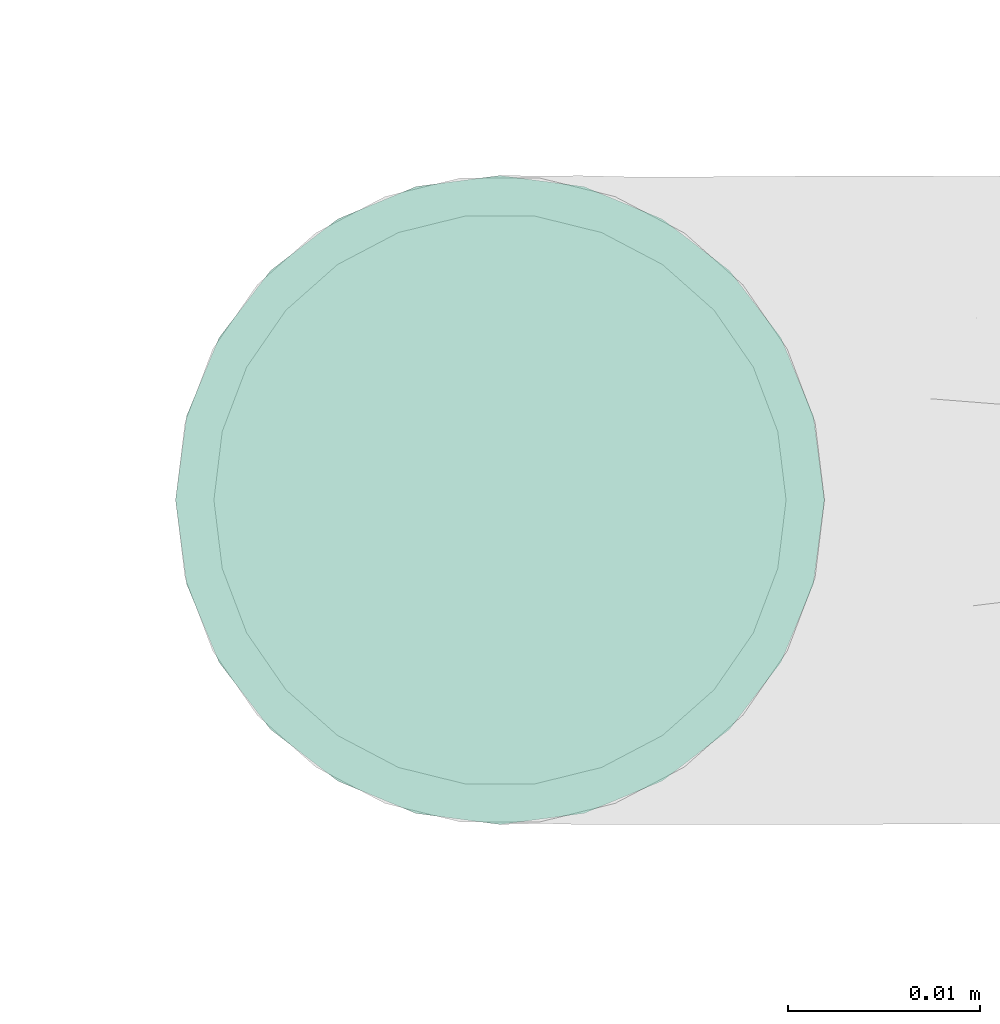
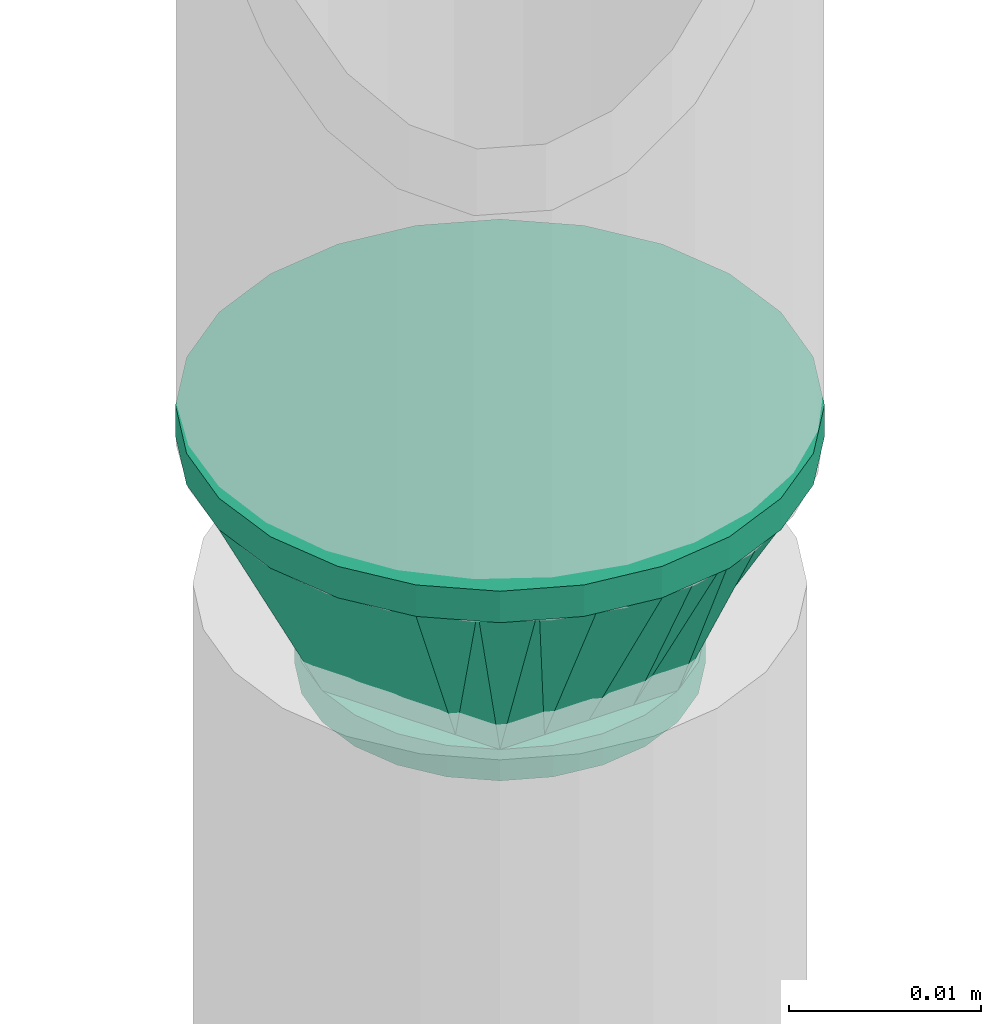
# One storey, part 26 of 94: 1 flow fitting.
"""IFC2X3 building model written with IfcOpenShell, lengths in millimetres."""

import ifcopenshell
import ifcopenshell.guid

model = None  # the IFC model being written
_history = None  # IfcOwnerHistory: only IFC2X3 demands one
_inside = {}  # id of a spatial element -> (the spatial element, [elements in it])
_under = {}  # id of a project, library or spatial element -> (it, [spatial elements below it])
_declared = {}  # id of a project -> (the project, [libraries it declares])
_typed = {}  # id of a type object -> (the type object, [elements of that type])
_made_of = {}  # id of a material, layer set ... -> (it, [elements and type objects made of it])


def new_model(schema):
    """Start an empty IFC model of exactly this schema.

    Asked for "IFC4X3", IfcOpenShell would pick the latest addendum, in which some entities
    have other attributes; the version numbers below select the first issue.
    IFC2X3 requires an IfcOwnerHistory on every rooted entity: one is made here for all.
    """
    global model, _history
    if schema == "IFC4X3":
        model = ifcopenshell.file(schema_version=(4, 3, 0, 0))
    else:
        model = ifcopenshell.file(schema=schema)
    _inside.clear()
    _under.clear()
    _declared.clear()
    _typed.clear()
    _made_of.clear()
    _history = None
    if model.schema == "IFC2X3":
        org = make("IfcOrganization", Name="unknown")
        user = make(
            "IfcPersonAndOrganization",
            ThePerson=make("IfcPerson", FamilyName="unknown"),
            TheOrganization=org,
        )
        app = make(
            "IfcApplication",
            ApplicationDeveloper=org,
            Version="unknown",
            ApplicationFullName="unknown",
            ApplicationIdentifier="unknown",
        )
        _history = make(
            "IfcOwnerHistory",
            OwningUser=user,
            OwningApplication=app,
            ChangeAction="ADDED",
            CreationDate=0,
        )
    return model


def make(cls, **values):
    """One entity of the class cls with the attributes given. An attribute that is None is left unset."""
    return model.create_entity(
        cls, **{name: value for name, value in values.items() if value is not None}
    )


def entity(cls, *values):
    """Any entity or typed value of the class cls, its attributes in the order of the schema. None: left unset."""
    e = model.create_entity(cls)
    for i, value in enumerate(values):
        if value is not None:
            e[i] = value
    return e


def rooted(cls, **values):
    """An entity with a GlobalId (a new one), such as an element, a storey or a relation."""
    return make(cls, GlobalId=ifcopenshell.guid.new(), OwnerHistory=_history, **values)


def si_unit(unit_type, name, prefix=None):
    """IfcSIUnit, for example si_unit("LENGTHUNIT", "METRE", prefix="MILLI")."""
    return make("IfcSIUnit", UnitType=unit_type, Prefix=prefix, Name=name)


def converted_unit(unit_type, name, factor, base, dimensions=None, offset=None):
    """IfcConversionBasedUnit, such as the inch: factor (a typed value) times the base unit."""
    return make(
        "IfcConversionBasedUnit"
        if offset is None
        else "IfcConversionBasedUnitWithOffset",
        ConversionOffset=offset,
        Dimensions=None
        if dimensions is None
        else entity("IfcDimensionalExponents", *dimensions),
        UnitType=unit_type,
        Name=name,
        ConversionFactor=make(
            "IfcMeasureWithUnit", ValueComponent=factor, UnitComponent=base
        ),
    )


def derived_unit(unit_type, elements):
    """IfcDerivedUnit: a product of units, each with its exponent."""
    return make(
        "IfcDerivedUnit",
        Elements=[
            make("IfcDerivedUnitElement", Unit=unit, Exponent=power)
            for unit, power in elements
        ],
        UnitType=unit_type,
    )


def assignment(units):
    """IfcUnitAssignment: the units of a project."""
    return None if units is None else make("IfcUnitAssignment", Units=units)


def point(xyz):
    """IfcCartesianPoint."""
    return None if xyz is None else make("IfcCartesianPoint", Coordinates=xyz)


def direction(xyz):
    """IfcDirection."""
    return None if xyz is None else make("IfcDirection", DirectionRatios=xyz)


def frame(location, z_axis=None, x_axis=None):
    """IfcAxis2Placement3D, a coordinate frame: its origin and axes. An axis left out is left unset."""
    return make(
        "IfcAxis2Placement3D",
        Location=point(location),
        Axis=direction(z_axis),
        RefDirection=direction(x_axis),
    )


def origin_with_axes():
    """The frame at (0, 0, 0) with the z axis (0, 0, 1) and the x axis (1, 0, 0) written out."""
    return frame((0.0, 0.0, 0.0), z_axis=(0.0, 0.0, 1.0), x_axis=(1.0, 0.0, 0.0))


def place(relative_to, where):
    """IfcLocalPlacement: puts the frame where relative to a parent placement (None: the world)."""
    return make(
        "IfcLocalPlacement", PlacementRelTo=relative_to, RelativePlacement=where
    )


def context(
    kind, dimensions, precision=None, world=None, true_north=None, identifier=None
):
    """IfcGeometricRepresentationContext, for example the 3D "Model" context."""
    return make(
        "IfcGeometricRepresentationContext",
        ContextIdentifier=identifier,
        ContextType=kind,
        CoordinateSpaceDimension=dimensions,
        Precision=precision,
        WorldCoordinateSystem=world,
        TrueNorth=true_north,
    )


def subcontext(parent, identifier, kind, view, scale=None):
    """IfcGeometricRepresentationSubContext, for example "Body" below "Model"."""
    return make(
        "IfcGeometricRepresentationSubContext",
        ContextIdentifier=identifier,
        ContextType=kind,
        ParentContext=parent,
        TargetScale=scale,
        TargetView=view,
    )


def project(units=None, contexts=None):
    """IfcProject with its units and contexts."""
    return rooted(
        "IfcProject",
        Name="project",
        RepresentationContexts=contexts,
        UnitsInContext=assignment(units),
    )


def spatial(cls, under=None, at=None, **own):
    """A site, building, storey or space (cls), placed at a placement, below another one or the project."""
    s = rooted(cls, ObjectPlacement=at, **own)
    if under is not None:
        _under.setdefault(under.id(), (under, []))[1].append(s)
    return s


def faces_of(points, faces, orient=None, outer=None):
    """IfcFace entities. A face is a list of loops; a loop is a list of indices into points, from 0.

    orient and outer hold one flag for each loop. By default every Orientation is true, the
    first loop of a face is its IfcFaceOuterBound and the others are IfcFaceBound.
    """
    made = []
    for i, loops in enumerate(faces):
        bounds = []
        for j, loop in enumerate(loops):
            is_outer = j == 0 if outer is None else outer[i][j]
            bounds.append(
                make(
                    "IfcFaceOuterBound" if is_outer else "IfcFaceBound",
                    Bound=make("IfcPolyLoop", Polygon=[points[k] for k in loop]),
                    Orientation=True if orient is None else orient[i][j],
                )
            )
        made.append(make("IfcFace", Bounds=bounds))
    return made


def open_shell(faces, orient=None, outer=None):
    """The faces of one IfcOpenShell. surface_model builds it on its shared points."""
    return ("IfcOpenShell", faces, orient, outer)


def surface_model(cls, points, shells):
    """IfcFaceBasedSurfaceModel or IfcShellBasedSurfaceModel (cls): surfaces that need not close."""
    shared = [point(p) for p in points]
    made = [make(c, CfsFaces=faces_of(shared, fs, o, b)) for c, fs, o, b in shells]
    if cls == "IfcFaceBasedSurfaceModel":
        return make(cls, FbsmFaces=made)
    return make(cls, SbsmBoundary=made)


def shape(context_of_items, identifier, shape_type, items):
    """IfcShapeRepresentation: the items that make up one representation, for example the "Body"."""
    return make(
        "IfcShapeRepresentation",
        ContextOfItems=context_of_items,
        RepresentationIdentifier=identifier,
        RepresentationType=shape_type,
        Items=items,
    )


def source(mapping_origin, context_of_items, identifier, shape_type, items):
    """IfcRepresentationMap: a shape defined once, which mapped items show again and again."""
    return make(
        "IfcRepresentationMap",
        MappingOrigin=mapping_origin,
        MappedRepresentation=shape(context_of_items, identifier, shape_type, items),
    )


def transform(
    local_origin,
    x_axis=None,
    y_axis=None,
    z_axis=None,
    scale=None,
    scale2=None,
    scale3=None,
    uniform=True,
):
    """IfcCartesianTransformationOperator3D, or its non-uniform kind. x_axis, y_axis, z_axis: its Axis1, 2, 3."""
    if uniform:
        return make(
            "IfcCartesianTransformationOperator3D",
            Axis1=direction(x_axis),
            Axis2=direction(y_axis),
            LocalOrigin=point(local_origin),
            Scale=scale,
            Axis3=direction(z_axis),
        )
    return make(
        "IfcCartesianTransformationOperator3DnonUniform",
        Axis1=direction(x_axis),
        Axis2=direction(y_axis),
        LocalOrigin=point(local_origin),
        Scale=scale,
        Axis3=direction(z_axis),
        Scale2=scale2,
        Scale3=scale3,
    )


def mapped(mapping_source, mapping_target):
    """IfcMappedItem: shows the shape of a source again, moved by a transform."""
    return make(
        "IfcMappedItem", MappingSource=mapping_source, MappingTarget=mapping_target
    )


def made_of(thing, what):
    """Note that an element or type object is made of a material, layer set ...; save() writes the relation."""
    if what is not None:
        _made_of.setdefault(what.id(), (what, []))[1].append(thing)
    return thing


def type_object(cls, material=None, **own):
    """A type object (cls), such as IfcWallType, which elements share."""
    return made_of(rooted(cls, **own), material)


def element(
    cls,
    number,
    at=None,
    inside=None,
    cuts=None,
    type_object=None,
    material=None,
    context=None,
    identifier="Body",
    shape_type=None,
    held_by="IfcProductDefinitionShape",
    body=None,
    shapes=None,
    **own,
):
    """One element of the class cls, such as IfcWall. Its Tag is "e" and its number.

    at: its placement. inside: the storey or other place that contains it. cuts: it is an
    opening in that element (IfcRelVoidsElement). A single representation is given by context,
    identifier, shape_type and body (its items); several are given by shapes. held_by: the class
    of the entity that holds the representations. save() writes the other relations.
    """
    e = rooted(cls, Tag="e%d" % number, ObjectPlacement=at, **own)
    if body is not None:
        shapes = [shape(context, identifier, shape_type, body)]
    if shapes is not None:
        e.Representation = make(held_by, Representations=shapes)
    if inside is not None:
        _inside.setdefault(inside.id(), (inside, []))[1].append(e)
    if cuts is not None:
        rooted(
            "IfcRelVoidsElement", RelatingBuildingElement=cuts, RelatedOpeningElement=e
        )
    if type_object is not None:
        _typed.setdefault(type_object.id(), (type_object, []))[1].append(e)
    return made_of(e, material)


def aggregate(whole, parts):
    """IfcRelAggregates: a whole, such as a stair, and the parts it consists of."""
    return rooted("IfcRelAggregates", RelatingObject=whole, RelatedObjects=parts)


def save(model, path):
    """Write the relations noted so far, then the file.

    IfcRelAggregates (storeys below a building ...), IfcRelContainedInSpatialStructure (elements
    in a storey), IfcRelDefinesByType, IfcRelAssociatesMaterial and IfcRelDeclares: one each for
    every whole, place, type object, material and project.
    """
    for whole, parts in _under.values():
        aggregate(whole, parts)
    for where, things in _inside.values():
        rooted(
            "IfcRelContainedInSpatialStructure",
            RelatedElements=things,
            RelatingStructure=where,
        )
    for kind, things in _typed.values():
        rooted("IfcRelDefinesByType", RelatedObjects=things, RelatingType=kind)
    for what, things in _made_of.values():
        rooted("IfcRelAssociatesMaterial", RelatedObjects=things, RelatingMaterial=what)
    for by, libraries in _declared.values():
        rooted("IfcRelDeclares", RelatingContext=by, RelatedDefinitions=libraries)
    model.write(path)


model = new_model("IFC2X3")

# Units and contexts
model_context = context("Model", 3, precision=0.01, world=frame((0.0, 4.29681676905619e-09, 0.0)), true_north=direction((4.01073788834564e-13, 1.0)))
plan_context = context("Plan", 3, precision=0.01, world=frame((0.0, 4.29681676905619e-09, 0.0)), true_north=direction((4.01073788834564e-13, 1.0)))
body_context = subcontext(model_context, "Body", "Model", "MODEL_VIEW")
ifc_project = project(units=[converted_unit("PLANEANGLEUNIT", "DEGREE", entity("IfcPositiveLengthMeasure", 0.0174532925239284), si_unit("PLANEANGLEUNIT", "RADIAN"), dimensions=[0, 0, 0, 0, 0, 0, 0]), si_unit("AREAUNIT", "SQUARE_METRE"), si_unit("LENGTHUNIT", "METRE", prefix="MILLI"), si_unit("MASSUNIT", "GRAM", prefix="KILO"), si_unit("POWERUNIT", "WATT"), si_unit("PRESSUREUNIT", "PASCAL", prefix="KILO"), si_unit("FORCEUNIT", "NEWTON", prefix="KILO"), si_unit("ELECTRICVOLTAGEUNIT", "VOLT"), si_unit("ELECTRICCURRENTUNIT", "AMPERE"), si_unit("THERMODYNAMICTEMPERATUREUNIT", "DEGREE_CELSIUS"), si_unit("TIMEUNIT", "SECOND"), si_unit("VOLUMEUNIT", "CUBIC_METRE"), derived_unit("LINEARVELOCITYUNIT", [(si_unit("LENGTHUNIT", "METRE"), 1), (si_unit("TIMEUNIT", "SECOND"), -1)]), derived_unit("VOLUMETRICFLOWRATEUNIT", [(si_unit("VOLUMEUNIT", "CUBIC_METRE"), 1), (si_unit("TIMEUNIT", "SECOND"), -1)]), derived_unit("THERMALTRANSMITTANCEUNIT", [(si_unit("POWERUNIT", "WATT"), 1), (si_unit("THERMODYNAMICTEMPERATUREUNIT", "KELVIN"), -1), (si_unit("AREAUNIT", "SQUARE_METRE"), -1)]), derived_unit("SOUNDPRESSUREUNIT", [(si_unit("PRESSUREUNIT", "PASCAL"), 1)])], contexts=[model_context, plan_context])

# Site, building, storey
site_placement = place(None, frame((0.0, -4.29681676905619e-09, 0.0), z_axis=(0.0, 0.0, 1.0), x_axis=(1.0, 0.0, 0.0)))
site = spatial("IfcSite", under=ifc_project, at=site_placement, CompositionType="ELEMENT")
building_placement = place(site_placement, frame((0.0, 4.29681676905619e-09, 0.0), z_axis=(0.0, 0.0, 1.0), x_axis=(1.0, 0.0, 0.0)))
building = spatial("IfcBuilding", under=site, at=building_placement, Name="mc-building", CompositionType="ELEMENT")
storey_placement = place(building_placement, frame((0.0, 0.0, 210900.0), z_axis=(0.0, 0.0, 1.0), x_axis=(1.0, 0.0, 0.0)))
storey = spatial("IfcBuildingStorey", under=building, at=storey_placement, Name="Nivå F", CompositionType="ELEMENT", Elevation=210900.0)

# Flow fitting
pipe_fitting_type = type_object("IfcPipeFittingType", Name="magi_pipe_fe_reducer_centric_short_NOR", PredefinedType="TRANSITION")
shared_shape = source(origin_with_axes(), body_context, "Body", "SurfaceModel", [
    surface_model("IfcShellBasedSurfaceModel", [(-2.0, -7.56604, -7.56604), (-2.0, -10.33541, -2.76936), (-2.0, -5.35, -9.26647), (-2.0, 5.35, -9.26647), (-2.0, 10.33541, -2.76936), (-2.0, 7.56604, -7.56604), (12.4, 11.9501, 11.9501), (12.4, 0.0, 16.9), (12.4, 11.9501, -11.9501), (12.4, 16.9, 0.0), (0.0, -10.7, 0.0), (0.0, -5.35, 9.26647), (0.0, -5.35, -9.26647), (0.0, 10.7, 0.0), (12.4, 15.66253, -2.98753), (12.4, 8.96258, -13.18758), (0.0, 6.6875, -6.94985), (12.4, -15.66253, -2.98753), (12.4, -16.9, 0.0), (12.4, 5.97505, -14.42505), (0.0, 5.35, -9.26647), (12.4, 14.42505, -5.97505), (0.0, 8.025, -4.63324), (0.0, 9.3625, -2.31662), (0.0, -9.3625, -2.31662), (0.0, -8.025, -4.63324), (12.4, -14.42505, -5.97505), (12.4, 13.18758, -8.96258), (12.4, -13.18758, -8.96258), (12.4, -11.9501, -11.9501), (0.0, -6.6875, -6.94985), (12.4, -8.96258, -13.18758), (12.4, -5.97505, -14.42505), (12.4, -15.66253, 2.98753), (12.4, -8.96258, 13.18758), (0.0, -6.6875, 6.94985), (12.4, -11.9501, 11.9501), (12.4, 15.66253, 2.98753), (12.4, -5.97505, 14.42505), (12.4, -14.42505, 5.97505), (0.0, -8.025, 4.63324), (0.0, -9.3625, 2.31662), (0.0, 9.3625, 2.31662), (0.0, 8.025, 4.63324), (12.4, 14.42505, 5.97505), (12.4, -13.18758, 8.96258), (12.4, 13.18758, 8.96258), (0.0, 6.6875, 6.94985), (12.4, 8.96258, 13.18758), (0.0, 5.35, 9.26647), (12.4, 5.97505, 14.42505), (14.4, 4.37404, -16.32415), (14.4, 8.45, -14.63583), (14.4, 11.9501, -11.9501), (14.4, -8.45, -14.63583), (14.4, 16.32415, -4.37404), (14.4, 16.32415, 4.37404), (14.4, 14.63583, -8.45), (14.4, 0.0, -16.9), (14.4, -4.37404, -16.32415), (14.4, -11.9501, -11.9501), (14.4, -16.32415, -4.37404), (14.4, -14.63583, -8.45), (14.4, -16.32415, 4.37404), (14.4, 16.9, 0.0), (14.4, 14.63583, 8.45), (14.4, 11.9501, 11.9501), (14.4, 4.37404, 16.32415), (14.4, 8.45, 14.63583), (14.4, 0.0, 16.9), (14.4, -14.63583, 8.45), (14.4, -16.9, 0.0), (14.4, -8.45, 14.63583), (14.4, -11.9501, 11.9501), (14.4, -4.37404, 16.32415), (12.4, 4.37404, 16.32415), (12.4, -14.63583, 8.45), (12.4, 16.32415, 4.37404), (12.4, 8.45, 14.63583), (12.4, 14.63583, 8.45), (12.4, -8.45, 14.63583), (12.4, -4.37404, 16.32415), (12.4, -16.32415, 4.37404), (12.4, -16.32415, -4.37404), (12.4, -8.45, -14.63583), (12.4, 16.32415, -4.37404), (12.4, 14.63583, -8.45), (12.4, 8.45, -14.63583), (12.4, 4.37404, -16.32415), (12.4, 0.0, -16.9), (12.4, -14.63583, -8.45), (12.4, -4.37404, -16.32415), (-2.0, 2.76936, 10.33541), (-2.0, 0.0, 10.7), (-2.0, 5.35, 9.26647), (-2.0, 7.56604, 7.56604), (-2.0, 9.26647, 5.35), (-2.0, 10.33541, 2.76936), (-2.0, -10.33541, 2.76936), (-2.0, -2.76936, 10.33541), (-2.0, -7.56604, 7.56604), (-2.0, -5.35, 9.26647), (-2.0, -9.26647, 5.35), (-2.0, -10.7, 0.0), (-2.0, 9.26647, -5.35), (-2.0, 2.76936, -10.33541), (-2.0, -9.26647, -5.35), (-2.0, 0.0, -10.7), (-2.0, -2.76936, -10.33541), (-2.0, 10.7, 0.0), (0.0, 0.0, -10.7), (0.0, 2.76936, -10.33541), (0.0, 10.33541, -2.76936), (0.0, 7.56604, -7.56604), (0.0, -10.33541, -2.76936), (0.0, 9.26647, -5.35), (0.0, 0.0, 10.7), (0.0, -2.76936, -10.33541), (0.0, -7.56604, -7.56604), (0.0, -9.26647, -5.35), (0.0, 10.33541, 2.76936), (0.0, 9.26647, 5.35), (0.0, 7.56604, 7.56604), (0.0, 2.76936, 10.33541), (0.0, -7.56604, 7.56604), (0.0, -10.33541, 2.76936), (0.0, -9.26647, 5.35), (0.0, -2.76936, 10.33541), (0.0, 2.675, -9.26647), (0.0, -2.675, -9.26647), (12.4, 2.98753, -15.66253), (0.0, 0.0, -9.26647), (12.4, -2.98753, -15.66253), (0.0, -2.675, 9.26647), (0.0, 2.675, 9.26647), (12.4, -2.98753, 15.66253), (0.0, 0.0, 9.26647), (12.4, 2.98753, 15.66253)], [open_shell([[[0, 1, 2]], [[3, 4, 5]], [[6, 7, 8]], [[8, 9, 6]], [[10, 11, 12]], [[13, 9, 14]], [[15, 16, 8]], [[17, 18, 10]], [[15, 19, 20]], [[21, 22, 23]], [[24, 25, 26]], [[22, 21, 27]], [[28, 26, 25]], [[29, 30, 31]], [[12, 32, 31]], [[10, 18, 33]], [[34, 35, 36]], [[37, 9, 13]], [[34, 38, 11]], [[39, 40, 41]], [[42, 43, 44]], [[40, 39, 45]], [[46, 44, 43]], [[6, 47, 48]], [[49, 50, 48]], [[51, 52, 53]], [[54, 51, 53]], [[53, 55, 56]], [[55, 53, 57]], [[53, 56, 54]], [[58, 54, 59]], [[58, 51, 54]], [[60, 61, 62]], [[61, 60, 54]], [[54, 63, 61]], [[56, 55, 64]], [[56, 65, 66]], [[56, 66, 67]], [[67, 63, 54]], [[67, 66, 68]], [[63, 67, 69]], [[69, 70, 63]], [[71, 61, 63]], [[70, 72, 73]], [[70, 69, 72]], [[72, 69, 74]], [[54, 56, 67]], [[75, 76, 7]], [[77, 75, 78]], [[6, 79, 77]], [[6, 77, 78]], [[76, 75, 77]], [[80, 76, 36]], [[80, 81, 7]], [[7, 76, 80]], [[82, 76, 77]], [[82, 83, 18]], [[82, 77, 84]], [[77, 85, 8]], [[8, 85, 86]], [[8, 87, 88]], [[84, 77, 8]], [[88, 89, 8]], [[83, 29, 90]], [[29, 83, 84]], [[84, 89, 91]], [[83, 82, 84]], [[8, 89, 84]], [[85, 77, 9]], [[83, 61, 18]], [[90, 62, 83]], [[54, 29, 84]], [[90, 29, 60]], [[59, 84, 91]], [[83, 62, 61]], [[61, 71, 18]], [[59, 54, 84]], [[60, 29, 54]], [[60, 62, 90]], [[58, 59, 91]], [[91, 89, 58]], [[88, 51, 89]], [[87, 52, 88]], [[57, 8, 86]], [[87, 8, 53]], [[55, 86, 85]], [[87, 53, 52]], [[52, 51, 88]], [[64, 55, 85]], [[57, 86, 55]], [[57, 53, 8]], [[9, 64, 85]], [[89, 51, 58]], [[77, 56, 9]], [[79, 65, 77]], [[68, 6, 78]], [[79, 6, 66]], [[67, 78, 75]], [[77, 65, 56]], [[56, 64, 9]], [[67, 68, 78]], [[66, 6, 68]], [[66, 65, 79]], [[69, 67, 75]], [[75, 7, 69]], [[81, 74, 7]], [[80, 72, 81]], [[70, 36, 76]], [[80, 36, 73]], [[63, 76, 82]], [[80, 73, 72]], [[72, 74, 81]], [[71, 63, 82]], [[70, 76, 63]], [[70, 73, 36]], [[18, 71, 82]], [[7, 74, 69]], [[92, 1, 93]], [[94, 1, 92]], [[95, 96, 97]], [[95, 97, 94]], [[98, 93, 1]], [[99, 100, 101]], [[99, 93, 100]], [[100, 98, 102]], [[93, 98, 100]], [[98, 1, 103]], [[94, 97, 1]], [[1, 97, 4]], [[5, 4, 104]], [[4, 3, 1]], [[105, 1, 3]], [[1, 0, 106]], [[2, 107, 108]], [[2, 1, 105]], [[105, 107, 2]], [[4, 97, 109]], [[20, 110, 111]], [[112, 20, 113]], [[114, 20, 112]], [[112, 113, 115]], [[116, 114, 112]], [[110, 12, 117]], [[110, 20, 12]], [[118, 114, 119]], [[114, 118, 12]], [[20, 114, 12]], [[112, 13, 120]], [[120, 121, 122]], [[120, 122, 123]], [[116, 112, 123]], [[123, 122, 49]], [[116, 124, 114]], [[125, 124, 126]], [[10, 114, 125]], [[124, 127, 11]], [[125, 114, 124]], [[127, 124, 116]], [[123, 112, 120]], [[1, 114, 103]], [[106, 119, 1]], [[12, 0, 2]], [[106, 0, 118]], [[117, 2, 108]], [[1, 119, 114]], [[114, 10, 103]], [[117, 12, 2]], [[118, 0, 12]], [[118, 119, 106]], [[110, 117, 108]], [[108, 107, 110]], [[105, 111, 107]], [[3, 20, 105]], [[115, 5, 104]], [[3, 5, 113]], [[112, 104, 4]], [[3, 113, 20]], [[20, 111, 105]], [[13, 112, 4]], [[115, 104, 112]], [[115, 113, 5]], [[109, 13, 4]], [[107, 111, 110]], [[97, 120, 109]], [[96, 121, 97]], [[49, 95, 94]], [[96, 95, 122]], [[123, 94, 92]], [[97, 121, 120]], [[120, 13, 109]], [[123, 49, 94]], [[122, 95, 49]], [[122, 121, 96]], [[116, 123, 92]], [[92, 93, 116]], [[99, 127, 93]], [[101, 11, 99]], [[126, 100, 102]], [[101, 100, 124]], [[125, 102, 98]], [[101, 124, 11]], [[11, 127, 99]], [[10, 125, 98]], [[126, 102, 125]], [[126, 124, 100]], [[103, 10, 98]], [[93, 127, 116]], [[18, 7, 36]], [[18, 29, 8]], [[89, 8, 29]], [[18, 8, 7]], [[13, 11, 49]], [[13, 20, 12]], [[13, 12, 11]], [[24, 26, 17]], [[10, 24, 17]], [[16, 15, 20]], [[30, 12, 31]], [[23, 14, 21]], [[19, 128, 20]], [[27, 8, 16]], [[32, 12, 129]], [[30, 28, 25]], [[130, 131, 128]], [[129, 132, 32]], [[16, 22, 27]], [[13, 14, 23]], [[128, 19, 130]], [[130, 89, 131]], [[131, 132, 129]], [[89, 132, 131]], [[28, 30, 29]], [[42, 44, 37]], [[13, 42, 37]], [[35, 34, 11]], [[47, 49, 48]], [[41, 33, 39]], [[38, 133, 11]], [[45, 36, 35]], [[50, 49, 134]], [[47, 46, 43]], [[135, 136, 133]], [[134, 137, 50]], [[35, 40, 45]], [[10, 33, 41]], [[133, 38, 135]], [[135, 7, 136]], [[136, 137, 134]], [[7, 137, 136]], [[46, 47, 6]]])]),
])
flow_fitting_placement = place(storey_placement, frame((716000.0, 438618.37443, 2794.49074000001), z_axis=(0.0, 1.0, 0.0), x_axis=(0.0, 0.0, 1.0)))
element("IfcFlowFitting", 1, at=flow_fitting_placement, inside=storey, type_object=pipe_fitting_type, Name="magi_pipe_fe_reducer_centric_short_NOR", context=body_context, shape_type="MappedRepresentation", body=[
    mapped(shared_shape, transform((0.0, 0.0, 0.0), scale=1.0)),
])

save(model, "model.ifc")
